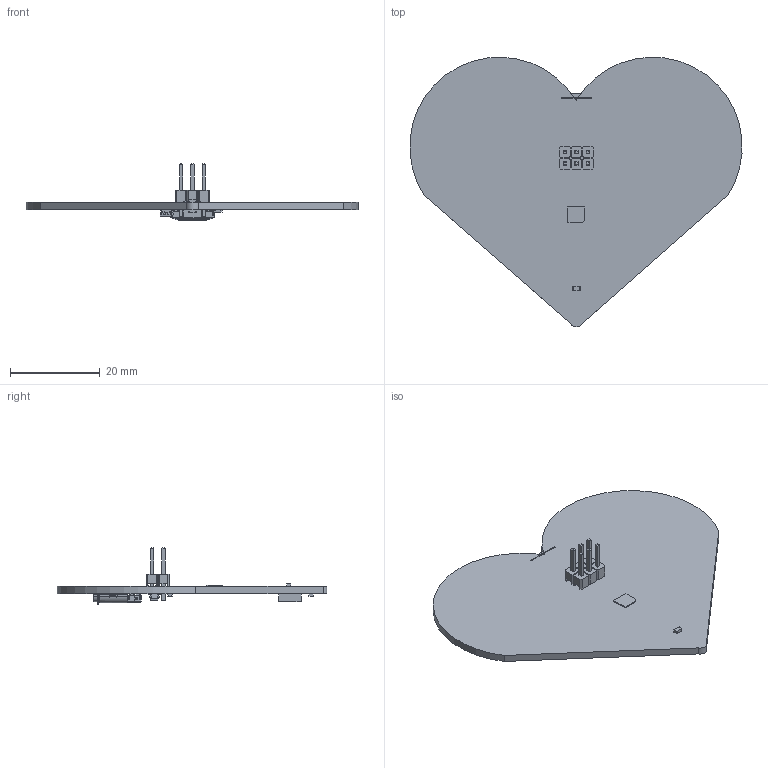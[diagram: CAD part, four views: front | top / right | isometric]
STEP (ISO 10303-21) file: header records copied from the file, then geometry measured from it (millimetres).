
FILE_DESCRIPTION(('Open CASCADE Model'),'2;1');
FILE_NAME('Open CASCADE Shape Model','2020-02-11T12:51:38',('Author'),( 'Open CASCADE'),'Open CASCADE STEP processor 6.5','Open CASCADE 6.5' ,'Unknown');
FILE_SCHEMA(('AUTOMOTIVE_DESIGN { 1 0 10303 214 1 1 1 1 }'));
Length unit declared in the file: millimetre
Products named in the file (36): PCB; Board; R2; 1566328880; Extruded; 1566328496; R1; 1566328368; 1566328240; X1; UC-31PFFH-QF7001_0614; U1; SOT23-5_D; U3; 1566327984; U2; 1566330160; R3; 1566327344; 1566327216; R4; 1566327728; 1566327600; J1; User_Library-HDR1X1_Rectangular_Straight; 1566330288
Assembly tree (45 placements, depth 4):
  PCB
    Board
    R2
      1566328880  x2
        Extruded
      1566328496
        Extruded
    R1
      1566328368
        Extruded
      1566328240  x2
        Extruded
    X1
      UC-31PFFH-QF7001_0614
    U1
      SOT23-5_D
    U3
      1566327984
        Extruded
    U2
      1566330160
        Extruded
    R3
      1566327344
        Extruded
      1566327216  x2
        Extruded
    R4
      1566327728  x2
        Extruded
      1566327600
        Extruded
    J1
      User_Library-HDR1X1_Rectangular_Straight  x6
      1566330288  x2
        Extruded
Bounding box: 74.19 x 60.24 x 12.52 mm (x, y, z)
Volume: 5303.3 mm3; surface area: 7890.4 mm2
Topology: 25 solids, 26 shells, 1402 faces, 3756 edges, 2380 vertices
Faces by surface type: plane 1003, cylinder 303, torus 33, sphere 32, cone 29, bspline 2
Entity records: 99561 total; most frequent: CARTESIAN_POINT 35930, DIRECTION 10863, ORIENTED_EDGE 6560, PCURVE 6560, DEFINITIONAL_REPRESENTATION 6560, LINE 6559, VECTOR 6559, EDGE_CURVE 3280
